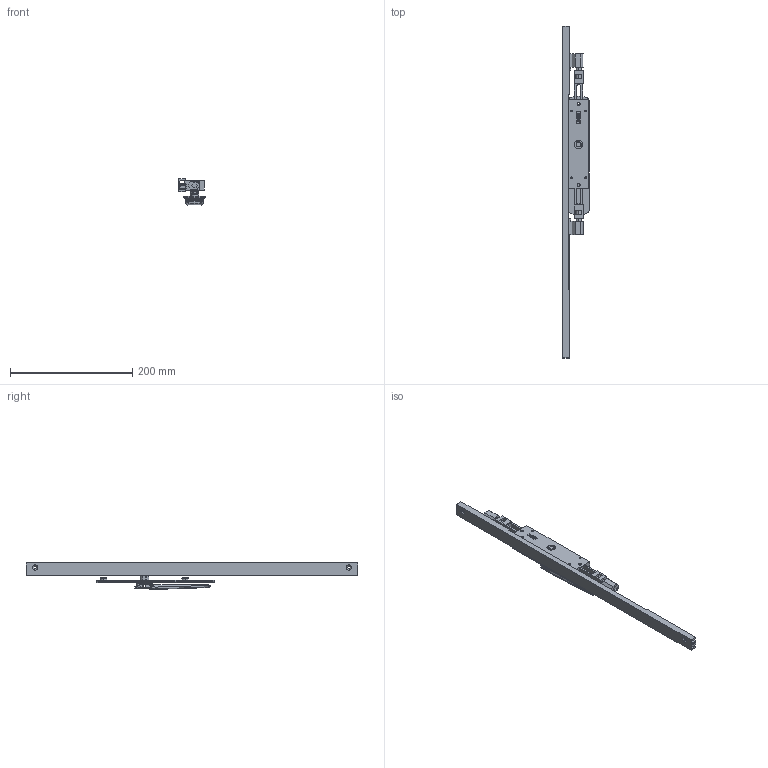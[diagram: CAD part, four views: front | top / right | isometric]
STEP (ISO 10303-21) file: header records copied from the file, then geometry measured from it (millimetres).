
FILE_DESCRIPTION (( 'STEP AP214' ), '1' );
FILE_NAME ('TPL-W-APC-601-L 28Oct2024.STEP', '2024-10-28T01:40:22', ( '' ), ( '' ), 'SwSTEP 2.0', 'SolidWorks 2023', '' );
FILE_SCHEMA (( 'AUTOMOTIVE_DESIGN' ));
Length unit declared in the file: millimetre
Products named in the file (18): Bottom twinpoint transmission rod wood system^TPL-W-APC-101 18Oct2024_Standard Range 2891.7mm; Copy of LKC-505 Swing handle zinc - simplified^Copy of TPGen2 handle non-keyed short zinc - simplified_TPL-W-APC-101 18Oct2024; Copy of LKC-516 Escutcheon plate unkeyed 195mm long zinc - simplified^Copy of TPGen2 handle non-keyed short zinc - simplified_TPL-W-APC-101 18Oct2024; Copy of TPLGen2 lock body non-keyed^Copy of TPLGen2 lock body non-keyed assembly_TPL-W-APC-101 18Oct2024; Adapter D - simplfied^TPL-W-APC-101 18Oct2024; Copy of COV-115-A Cover A suit TPLGen2 standard range AU with hinge holes^TPL-W-APC-101 18Oct2024_2870mm; Copy of LKC-585 Rotator body zinc^Copy of TPGen2 handle non-keyed short zinc - simplified_TPL-W-APC-101 18Oct2024; Copy of LKC-531-A Rod TPLGen2 machined bolt end^TPL-W-APC-101 18Oct2024_LKC-531-A-M003; Copy of TPGen2 handle non-keyed short zinc - simplified^TPL-W-APC-101 18Oct2024_Vertical; Adapter C - simplfied^TPL-W-APC-101 18Oct2024; Copy of TPLGen2 push rod - simplified^Copy of TPLGen2 lock body non-keyed assembly_TPL-W-APC-101 18Oct2024_Female thread M10; Copy of COV-115-B Cover B suit TPLGen2 standard range AU with hinge holes^TPL-W-APC-101 18Oct2024_2870mm; Copy of LKC-584 Pivot body zinc - simplified^Copy of TPGen2 handle non-keyed short zinc - simplified_TPL-W-APC-101 18Oct2024; Copy of TPLGen2 lock body non-keyed assembly^TPL-W-APC-101 18Oct2024_Bolts extended; Copy of COV-115-C Cover C suit TPLGen2 standard range AU^TPL-W-APC-101 18Oct2024; Bolt.step; TPL-W-APC-601-L 28Oct2024; Copy of LKC-586 Spindle square 8mm with M4 hole^Copy of TPGen2 handle non-keyed short zinc - simplified_TPL-W-APC-101 18Oct2024_25mm
Assembly tree (15 placements, depth 3):
  Copy of COV-115-A Cover A suit TPLGen2 standard range AU with hinge holes^TPL-W-APC-101 18Oct2024_2870mm
  Copy of COV-115-B Cover B suit TPLGen2 standard range AU with hinge holes^TPL-W-APC-101 18Oct2024_2870mm
  Bolt.step
  TPL-W-APC-601-L 28Oct2024
    Copy of TPLGen2 lock body non-keyed assembly^TPL-W-APC-101 18Oct2024_Bolts extended
      Copy of TPLGen2 lock body non-keyed^Copy of TPLGen2 lock body non-keyed assembly_TPL-W-APC-101 18Oct2024
      Copy of TPLGen2 push rod - simplified^Copy of TPLGen2 lock body non-keyed assembly_TPL-W-APC-101 18Oct2024_Female thread M10  x2
    Copy of TPGen2 handle non-keyed short zinc - simplified^TPL-W-APC-101 18Oct2024_Vertical
      Copy of LKC-516 Escutcheon plate unkeyed 195mm long zinc - simplified^Copy of TPGen2 handle non-keyed short zinc - simplified_TPL-W-APC-101 18Oct2024
      Copy of LKC-505 Swing handle zinc - simplified^Copy of TPGen2 handle non-keyed short zinc - simplified_TPL-W-APC-101 18Oct2024
      Copy of LKC-585 Rotator body zinc^Copy of TPGen2 handle non-keyed short zinc - simplified_TPL-W-APC-101 18Oct2024
      Copy of LKC-586 Spindle square 8mm with M4 hole^Copy of TPGen2 handle non-keyed short zinc - simplified_TPL-W-APC-101 18Oct2024_25mm
      Copy of LKC-584 Pivot body zinc - simplified^Copy of TPGen2 handle non-keyed short zinc - simplified_TPL-W-APC-101 18Oct2024
    Copy of COV-115-C Cover C suit TPLGen2 standard range AU^TPL-W-APC-101 18Oct2024
    Bottom twinpoint transmission rod wood system^TPL-W-APC-101 18Oct2024_Standard Range 2891.7mm
    Copy of LKC-531-A Rod TPLGen2 machined bolt end^TPL-W-APC-101 18Oct2024_LKC-531-A-M003
    Adapter D - simplfied^TPL-W-APC-101 18Oct2024
    Adapter C - simplfied^TPL-W-APC-101 18Oct2024
Bounding box: 43.5 x 544 x 42.86 mm (x, y, z)
Volume: 200590.8 mm3; surface area: 112439.7 mm2
Topology: 13 solids, 13 shells, 849 faces, 2094 edges, 1300 vertices
Faces by surface type: plane 306, bspline 241, cylinder 182, cone 66, torus 46, sphere 8
Entity records: 30613 total; most frequent: CARTESIAN_POINT 12551, ORIENTED_EDGE 3996, DIRECTION 3180, EDGE_CURVE 1998, VERTEX_POINT 1240, AXIS2_PLACEMENT_3D 1147, EDGE_LOOP 896, VECTOR 886
